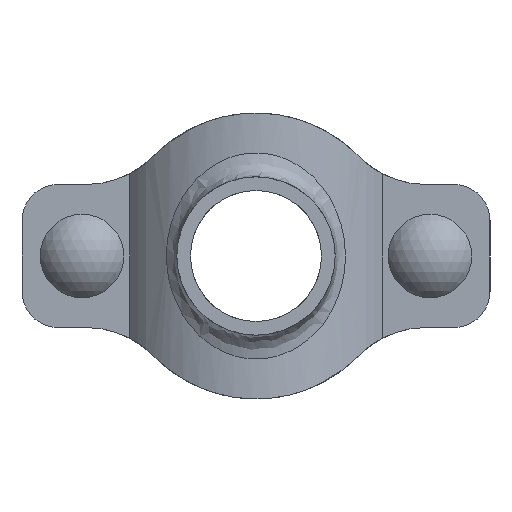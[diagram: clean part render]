
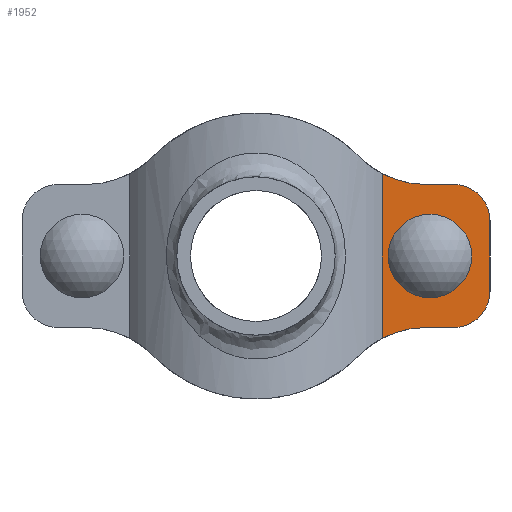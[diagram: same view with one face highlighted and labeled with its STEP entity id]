
A CAD part, front view. The second image highlights one B-rep face of the part: STEP entity #1952.
In plain terms, the highlighted planar face has unit normal (0, -1, 0) as drawn and (0, 1, 0) by its records, which use the part's own axes.
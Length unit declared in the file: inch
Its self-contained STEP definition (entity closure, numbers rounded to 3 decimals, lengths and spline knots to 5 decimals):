
#127=FACE_BOUND('',#345,.T.);
#218=FACE_OUTER_BOUND('',#344,.T.);
#344=EDGE_LOOP('',(#1623,#1624,#1625,#1626,#1627,#1628,#1629,#1630));
#345=EDGE_LOOP('',(#1631,#1632,#1633,#1634));
#457=LINE('',#3735,#603);
#468=LINE('',#3802,#614);
#472=LINE('',#3813,#618);
#490=LINE('',#4038,#636);
#491=LINE('',#4042,#637);
#492=LINE('',#4045,#638);
#603=VECTOR('',#2567,0.3937);
#614=VECTOR('',#2602,0.3937);
#618=VECTOR('',#2614,0.3937);
#636=VECTOR('',#2696,0.3937);
#637=VECTOR('',#2699,0.3937);
#638=VECTOR('',#2702,0.3937);
#712=CIRCLE('',#2162,0.2875);
#714=CIRCLE('',#2166,0.2875);
#733=CIRCLE('',#2199,1.);
#734=CIRCLE('',#2200,1.);
#735=CIRCLE('',#2201,0.38);
#736=CIRCLE('',#2202,0.38);
#858=VERTEX_POINT('',#3725);
#859=VERTEX_POINT('',#3734);
#869=VERTEX_POINT('',#3792);
#870=VERTEX_POINT('',#3793);
#873=VERTEX_POINT('',#3801);
#875=VERTEX_POINT('',#3807);
#907=VERTEX_POINT('',#4033);
#908=VERTEX_POINT('',#4035);
#909=VERTEX_POINT('',#4037);
#910=VERTEX_POINT('',#4039);
#911=VERTEX_POINT('',#4041);
#912=VERTEX_POINT('',#4043);
#1089=EDGE_CURVE('',#859,#858,#457,.T.);
#1104=EDGE_CURVE('',#869,#870,#712,.T.);
#1108=EDGE_CURVE('',#870,#873,#468,.T.);
#1111=EDGE_CURVE('',#873,#875,#714,.T.);
#1114=EDGE_CURVE('',#875,#869,#472,.T.);
#1156=EDGE_CURVE('',#859,#907,#733,.T.);
#1157=EDGE_CURVE('',#908,#858,#734,.T.);
#1158=EDGE_CURVE('',#909,#908,#490,.T.);
#1159=EDGE_CURVE('',#910,#909,#735,.T.);
#1160=EDGE_CURVE('',#911,#910,#491,.T.);
#1161=EDGE_CURVE('',#912,#911,#736,.T.);
#1162=EDGE_CURVE('',#907,#912,#492,.T.);
#1623=ORIENTED_EDGE('',*,*,#1156,.F.);
#1624=ORIENTED_EDGE('',*,*,#1089,.T.);
#1625=ORIENTED_EDGE('',*,*,#1157,.F.);
#1626=ORIENTED_EDGE('',*,*,#1158,.F.);
#1627=ORIENTED_EDGE('',*,*,#1159,.F.);
#1628=ORIENTED_EDGE('',*,*,#1160,.F.);
#1629=ORIENTED_EDGE('',*,*,#1161,.F.);
#1630=ORIENTED_EDGE('',*,*,#1162,.F.);
#1631=ORIENTED_EDGE('',*,*,#1111,.T.);
#1632=ORIENTED_EDGE('',*,*,#1114,.T.);
#1633=ORIENTED_EDGE('',*,*,#1104,.T.);
#1634=ORIENTED_EDGE('',*,*,#1108,.T.);
#1749=PLANE('',#2198);
#1952=ADVANCED_FACE('',(#218,#127),#1749,.F.);
#2162=AXIS2_PLACEMENT_3D('',#3794,#2594,#2595);
#2166=AXIS2_PLACEMENT_3D('',#3808,#2607,#2608);
#2198=AXIS2_PLACEMENT_3D('',#4032,#2690,#2691);
#2199=AXIS2_PLACEMENT_3D('',#4034,#2692,#2693);
#2200=AXIS2_PLACEMENT_3D('',#4036,#2694,#2695);
#2201=AXIS2_PLACEMENT_3D('',#4040,#2697,#2698);
#2202=AXIS2_PLACEMENT_3D('',#4044,#2700,#2701);
#2567=DIRECTION('',(0.,0.,-1.));
#2594=DIRECTION('center_axis',(0.,-1.,0.));
#2595=DIRECTION('ref_axis',(-1.,0.,0.));
#2602=DIRECTION('',(0.,0.,-1.));
#2607=DIRECTION('center_axis',(0.,-1.,0.));
#2608=DIRECTION('ref_axis',(1.,0.,0.));
#2614=DIRECTION('',(0.,0.,1.));
#2690=DIRECTION('center_axis',(0.,-1.,0.));
#2691=DIRECTION('ref_axis',(1.,0.,0.));
#2692=DIRECTION('center_axis',(0.,1.,0.));
#2693=DIRECTION('ref_axis',(-0.714,0.,0.7));
#2694=DIRECTION('center_axis',(0.,1.,0.));
#2695=DIRECTION('ref_axis',(0.,0.,-1.));
#2696=DIRECTION('',(1.,0.,0.));
#2697=DIRECTION('center_axis',(0.,-1.,0.));
#2698=DIRECTION('ref_axis',(0.,0.,-1.));
#2699=DIRECTION('',(0.,0.,-1.));
#2700=DIRECTION('center_axis',(0.,-1.,0.));
#2701=DIRECTION('ref_axis',(-1.,0.,0.));
#2702=DIRECTION('',(-1.,0.,0.));
#3725=CARTESIAN_POINT('',(-1.32499,1.,-0.86227));
#3734=CARTESIAN_POINT('',(-1.32499,1.,0.86227));
#3735=CARTESIAN_POINT('',(-1.32499,1.,0.));
#3792=CARTESIAN_POINT('',(-1.5375,1.,0.0925));
#3793=CARTESIAN_POINT('',(-2.1125,1.,0.0925));
#3794=CARTESIAN_POINT('Origin',(-1.825,1.,0.0925));
#3801=CARTESIAN_POINT('',(-2.1125,1.,-0.0925));
#3802=CARTESIAN_POINT('',(-2.1125,1.,-0.04625));
#3807=CARTESIAN_POINT('',(-1.5375,1.,-0.0925));
#3808=CARTESIAN_POINT('Origin',(-1.825,1.,-0.0925));
#3813=CARTESIAN_POINT('',(-1.5375,1.,0.04625));
#4032=CARTESIAN_POINT('Origin',(-2.455,1.,0.));
#4033=CARTESIAN_POINT('',(-1.78536,1.,0.75));
#4034=CARTESIAN_POINT('Origin',(-1.78536,1.,1.75));
#4035=CARTESIAN_POINT('',(-1.78536,1.,-0.75));
#4036=CARTESIAN_POINT('Origin',(-1.78536,1.,-1.75));
#4037=CARTESIAN_POINT('',(-2.075,1.,-0.75));
#4038=CARTESIAN_POINT('',(-2.12018,1.,-0.75));
#4039=CARTESIAN_POINT('',(-2.455,1.,-0.37));
#4040=CARTESIAN_POINT('Origin',(-2.075,1.,-0.37));
#4041=CARTESIAN_POINT('',(-2.455,1.,0.37));
#4042=CARTESIAN_POINT('',(-2.455,1.,-0.185));
#4043=CARTESIAN_POINT('',(-2.075,1.,0.75));
#4044=CARTESIAN_POINT('Origin',(-2.075,1.,0.37));
#4045=CARTESIAN_POINT('',(-2.265,1.,0.75));
